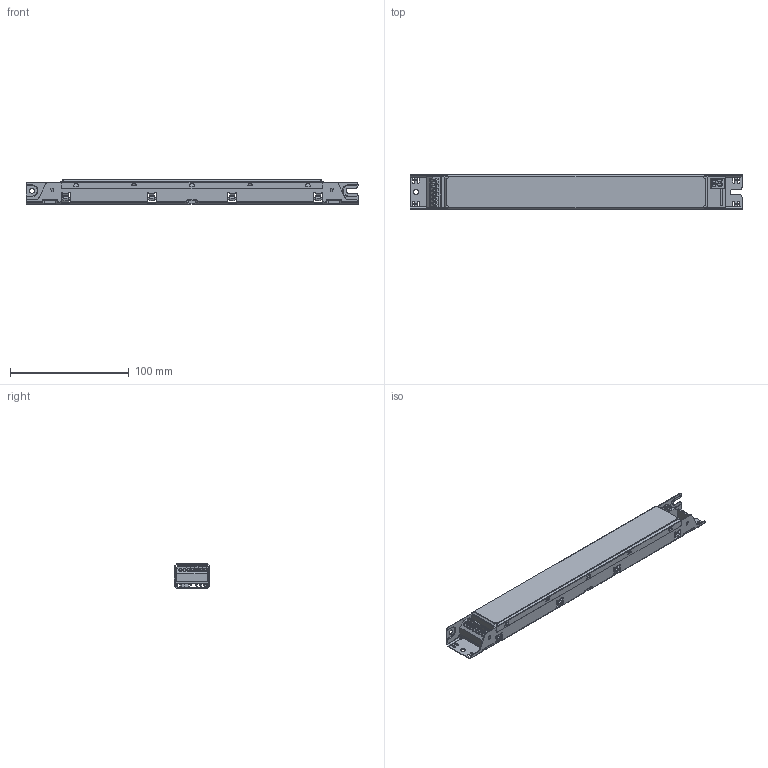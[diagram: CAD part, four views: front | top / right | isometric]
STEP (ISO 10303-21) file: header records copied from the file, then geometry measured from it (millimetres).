
FILE_DESCRIPTION(('Creo Elements/Direct Modeling STEP Export'),'2;1');
FILE_NAME('3D_600385-186738.step','2019-12-03T 6:36:06',(''),(''),'PTC Creo Elements/Direct Modeling STEP processor for AP214 (Solid Model)','PTC Creo Elements/Direct Modeling 19.0E 27-Jun-2016 (C) Parametric Technology GmbH','');
FILE_SCHEMA(('AUTOMOTIVE_DESIGN { 1 0 10303 214 1 1 1 1 }'));
Length unit declared in the file: millimetre
Products named in the file (4): casing_top; casing_bottom; Board; 3D_M7.1
Assembly tree (3 placements, depth 2):
  3D_M7.1
    Board
    casing_bottom
    casing_top
Bounding box: 280 x 30 x 20.91 mm (x, y, z)
Volume: 27391.8 mm3; surface area: 70317.4 mm2
Topology: 3 solids, 3 shells, 2085 faces, 6004 edges, 3894 vertices
Faces by surface type: plane 1318, cylinder 579, bspline 142, sphere 24, cone 22
Entity records: 81868 total; most frequent: CARTESIAN_POINT 25370, ORIENTED_EDGE 11946, DIRECTION 9716, EDGE_CURVE 5973, VECTOR 4150, LINE 4150, VERTEX_POINT 3894, AXIS2_PLACEMENT_3D 2783
